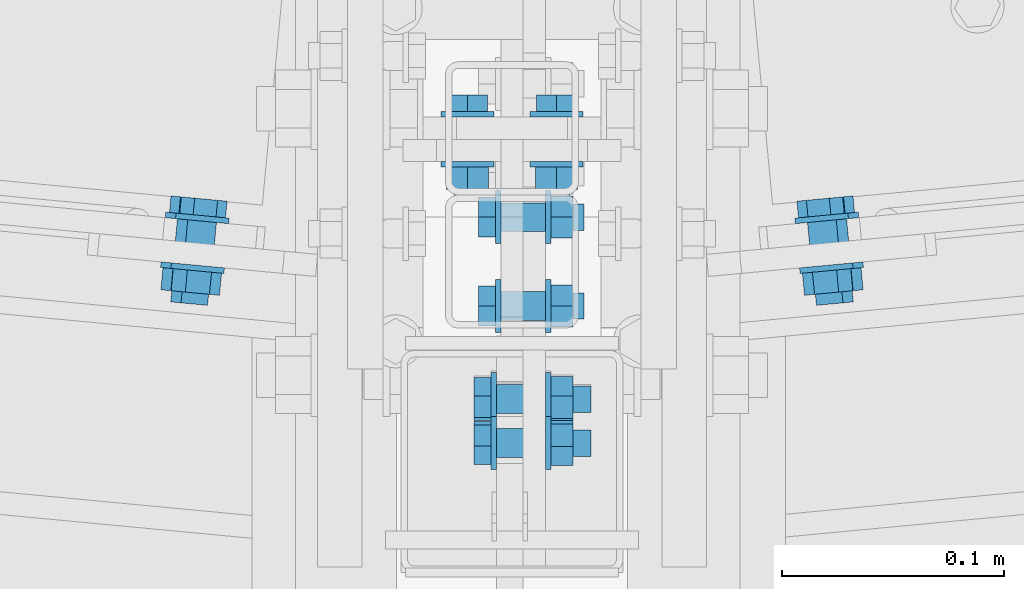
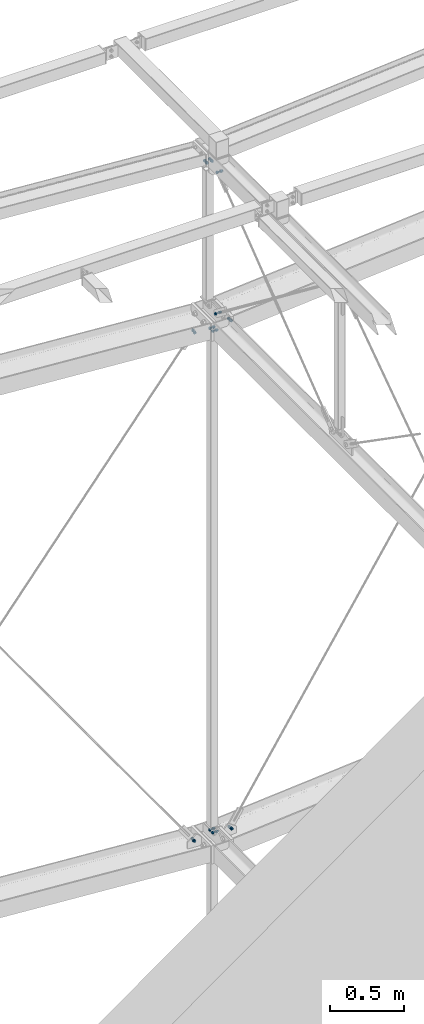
# One storey, part 244 of 271: 9 mechanical fasteners, 8 elements without a shape of their own.
"""IFC2X3 building model written with IfcOpenShell, lengths in millimetres."""

from ifc_helpers import new_model, si_unit, frame, origin_with_axes, origin_2d_with_axis, place, context, subcontext, project, spatial, polyline, circle, outline, extrude, source, transform, mapped, material, type_object, element, aggregate, save


model = new_model("IFC2X3")

# Units and contexts
model_context = context("Model", 3, precision=1e-05, world=origin_with_axes())
body_context = subcontext(model_context, "Body", "Model", "MODEL_VIEW")
ifc_project = project(units=[si_unit("LENGTHUNIT", "METRE", prefix="MILLI"), si_unit("AREAUNIT", "SQUARE_METRE"), si_unit("VOLUMEUNIT", "CUBIC_METRE"), si_unit("MASSUNIT", "GRAM", prefix="KILO"), si_unit("TIMEUNIT", "SECOND"), si_unit("PLANEANGLEUNIT", "RADIAN"), si_unit("SOLIDANGLEUNIT", "STERADIAN"), si_unit("THERMODYNAMICTEMPERATUREUNIT", "DEGREE_CELSIUS"), si_unit("LUMINOUSINTENSITYUNIT", "LUMEN")], contexts=[model_context])

# Site, building, storey
site_placement = place(None, origin_with_axes())
site = spatial("IfcSite", under=ifc_project, at=site_placement, Name="Undefined", CompositionType="ELEMENT")
building_placement = place(site_placement, origin_with_axes())
building = spatial("IfcBuilding", under=site, at=building_placement, Name="Undefined", CompositionType="ELEMENT")
storey_placement = place(building_placement, origin_with_axes())
storey = spatial("IfcBuildingStorey", under=building, at=storey_placement, Name="Undefined", CompositionType="ELEMENT", Elevation=0.0)

# Assembly, mechanical fastener
assembly_1_placement = place(storey_placement, origin_with_axes())
assembly_1 = element("IfcElementAssembly", 1, at=assembly_1_placement, inside=storey, AssemblyPlace="NOTDEFINED", PredefinedType="RIGID_FRAME")
ifc_material = material(Name="Undefined")
mechanical_fastener_type = type_object("IfcMechanicalFastenerType", Name="Bolt assembly")
shared_shape_1 = source(origin_with_axes(), body_context, "Body", "SweptSolid", [
    extrude(circle(Radius=6.5, at=origin_2d_with_axis()), frame((0.0, -5.1, 0.0), z_axis=(0.0, 1.0, 0.0), x_axis=(1.0, 0.0, 0.0)), (0.0, 0.0, 1.0), 10.1),
    extrude(circle(Radius=6.5, at=origin_2d_with_axis()), frame((0.0, -16.9, 0.0), z_axis=(0.0, 1.0, 0.0), x_axis=(1.0, 0.0, 0.0)), (0.0, 0.0, 1.0), 12.0),
    extrude(outline(polyline([(10.39230484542, 0.0), (5.19615242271, 9.00000000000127), (-5.19615242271, 9.00000000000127), (-10.39230484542, 0.0), (-5.19615242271, -9.00000000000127), (5.19615242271, -9.00000000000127), (10.39230484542, 0.0)])), frame((0.0, -27.0, 0.0), z_axis=(0.0, 1.0, 0.0), x_axis=(1.0, 0.0, 0.0)), (0.0, 0.0, 1.0), 7.5),
    extrude(circle(Radius=6.0, at=origin_2d_with_axis()), frame((0.0, -19.5, 0.0), z_axis=(0.0, 1.0, 0.0), x_axis=(1.0, 0.0, 0.0)), (0.0, 0.0, 1.0), 45.0),
    extrude(circle(Radius=12.0, at=origin_2d_with_axis()), frame((0.0, -19.5, 0.0), z_axis=(0.0, 1.0, 0.0), x_axis=(1.0, 0.0, 0.0)), (0.0, 0.0, 1.0), 2.5),
    extrude(circle(Radius=12.0, at=origin_2d_with_axis()), frame((0.0, 5.00000000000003, 0.0), z_axis=(0.0, 1.0, 0.0), x_axis=(1.0, 0.0, 0.0)), (0.0, 0.0, 1.0), 2.5),
    extrude(outline(polyline([(10.96965511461, 0.0), (5.484827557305, 9.50000000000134), (-5.484827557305, 9.50000000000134), (-10.96965511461, 0.0), (-5.484827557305, -9.50000000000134), (5.484827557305, -9.50000000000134), (10.96965511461, 0.0)])), frame((0.0, 7.50000000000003, 0.0), z_axis=(0.0, 1.0, 0.0), x_axis=(1.0, 0.0, 0.0)), (0.0, 0.0, 1.0), 10.0),
])
mechanical_fastener_1_placement = place(assembly_1_placement, frame((6358.37568736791, 3643.02599594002, 18726.6469362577), z_axis=(0.0, 0.609061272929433, 0.793123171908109), x_axis=(0.0, -0.793123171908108, 0.609061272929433)))
mechanical_fastener_1 = element("IfcMechanicalFastener", 2, at=mechanical_fastener_1_placement, type_object=mechanical_fastener_type, material=ifc_material, Name="Bolt assembly", NominalDiameter=12.0, NominalLength=45.0, context=body_context, shape_type="MappedRepresentation", body=[
    mapped(shared_shape_1, transform((0.0, 0.0, 0.0))),
])
aggregate(assembly_1, [mechanical_fastener_1])

assembly_2_placement = place(storey_placement, origin_with_axes())
assembly_2 = element("IfcElementAssembly", 3, at=assembly_2_placement, inside=storey, AssemblyPlace="NOTDEFINED", PredefinedType="RIGID_FRAME")
mechanical_fastener_2_placement = place(assembly_2_placement, frame((6358.37568736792, 3623.22015775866, 19906.8436120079), z_axis=(0.0, -0.609061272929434, 0.793123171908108), x_axis=(0.0, -0.793123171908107, -0.609061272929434)))
mechanical_fastener_2 = element("IfcMechanicalFastener", 4, at=mechanical_fastener_2_placement, type_object=mechanical_fastener_type, material=ifc_material, Name="Bolt assembly", NominalDiameter=12.0, NominalLength=45.0, context=body_context, shape_type="MappedRepresentation", body=[
    mapped(shared_shape_1, transform((0.0, 0.0, 0.0))),
])
aggregate(assembly_2, [mechanical_fastener_2])

assembly_3_placement = place(storey_placement, origin_with_axes())
assembly_3 = element("IfcElementAssembly", 5, at=assembly_3_placement, inside=storey, AssemblyPlace="NOTDEFINED", PredefinedType="RIGID_FRAME")
shared_shape_2 = source(origin_with_axes(), body_context, "Body", "SweptSolid", [
    extrude(circle(Radius=6.5, at=origin_2d_with_axis()), frame((0.0, -5.1, 0.0), z_axis=(0.0, 1.0, 0.0), x_axis=(1.0, 0.0, 0.0)), (0.0, 0.0, 1.0), 10.1),
    extrude(circle(Radius=6.5, at=origin_2d_with_axis()), frame((0.0, -14.9000000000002, 0.0), z_axis=(0.0, 1.0, 0.0), x_axis=(1.0, 0.0, 0.0)), (0.0, 0.0, 1.0), 10.0),
    extrude(outline(polyline([(10.39230484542, 0.0), (5.19615242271, 9.00000000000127), (-5.19615242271, 9.00000000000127), (-10.39230484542, 0.0), (-5.19615242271, -9.00000000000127), (5.19615242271, -9.00000000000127), (10.39230484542, 0.0)])), frame((0.0, -25.0000000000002, 0.0), z_axis=(0.0, 1.0, 0.0), x_axis=(1.0, 0.0, 0.0)), (0.0, 0.0, 1.0), 7.5),
    extrude(circle(Radius=6.0, at=origin_2d_with_axis()), frame((0.0, -17.5000000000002, 0.0), z_axis=(0.0, 1.0, 0.0), x_axis=(1.0, 0.0, 0.0)), (0.0, 0.0, 1.0), 40.0),
    extrude(circle(Radius=12.0, at=origin_2d_with_axis()), frame((0.0, -17.5000000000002, 0.0), z_axis=(0.0, 1.0, 0.0), x_axis=(1.0, 0.0, 0.0)), (0.0, 0.0, 1.0), 2.5),
    extrude(circle(Radius=12.0, at=origin_2d_with_axis()), frame((0.0, 5.00000000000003, 0.0), z_axis=(0.0, 1.0, 0.0), x_axis=(1.0, 0.0, 0.0)), (0.0, 0.0, 1.0), 2.5),
    extrude(outline(polyline([(10.96965511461, 0.0), (5.484827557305, 9.50000000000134), (-5.484827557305, 9.50000000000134), (-10.96965511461, 0.0), (-5.484827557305, -9.50000000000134), (5.484827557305, -9.50000000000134), (10.96965511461, 0.0)])), frame((0.0, 7.50000000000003, 0.0), z_axis=(0.0, 1.0, 0.0), x_axis=(1.0, 0.0, 0.0)), (0.0, 0.0, 1.0), 10.0),
])
mechanical_fastener_3_placement = place(assembly_3_placement, frame((6348.37568736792, 3754.92439872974, 19916.8499999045), z_axis=(-1.0, 0.0, 1.38777878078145e-17), x_axis=(0.0, 0.0, -1.0)))
mechanical_fastener_3 = element("IfcMechanicalFastener", 6, at=mechanical_fastener_3_placement, type_object=mechanical_fastener_type, material=ifc_material, Name="Bolt assembly", NominalDiameter=12.0, NominalLength=40.0, context=body_context, shape_type="MappedRepresentation", body=[
    mapped(shared_shape_2, transform((0.0, 0.0, -20.0))),
    mapped(shared_shape_2, transform((0.0, 0.0, 20.0))),
])
aggregate(assembly_3, [mechanical_fastener_3])

assembly_4_placement = place(storey_placement, origin_with_axes())
assembly_4 = element("IfcElementAssembly", 7, at=assembly_4_placement, inside=storey, AssemblyPlace="NOTDEFINED", PredefinedType="RIGID_FRAME")
mechanical_fastener_4_placement = place(assembly_4_placement, frame((6489.27550537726, 3708.17756918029, 18584.431866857), z_axis=(-0.809182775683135, -0.0762839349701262, -0.582583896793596), x_axis=(0.580001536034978, 0.0547925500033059, -0.81277056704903)))
mechanical_fastener_4 = element("IfcMechanicalFastener", 8, at=mechanical_fastener_4_placement, type_object=mechanical_fastener_type, material=ifc_material, Name="Bolt assembly", NominalDiameter=12.0, NominalLength=40.0, context=body_context, shape_type="MappedRepresentation", body=[
    mapped(shared_shape_2, transform((0.0, 0.0, 0.0))),
])
aggregate(assembly_4, [mechanical_fastener_4])

assembly_5_placement = place(storey_placement, origin_with_axes())
assembly_5 = element("IfcElementAssembly", 9, at=assembly_5_placement, inside=storey, AssemblyPlace="NOTDEFINED", PredefinedType="RIGID_FRAME")
mechanical_fastener_5_placement = place(assembly_5_placement, frame((6493.91223412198, 3708.61559757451, 14384.2621958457), z_axis=(0.809602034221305, 0.0763236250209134, -0.5819959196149), x_axis=(0.579416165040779, 0.0547372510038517, 0.813191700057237)))
mechanical_fastener_5 = element("IfcMechanicalFastener", 10, at=mechanical_fastener_5_placement, type_object=mechanical_fastener_type, material=ifc_material, Name="Bolt assembly", NominalDiameter=12.0, NominalLength=40.0, context=body_context, shape_type="MappedRepresentation", body=[
    mapped(shared_shape_2, transform((0.0, 0.0, 0.0))),
])
aggregate(assembly_5, [mechanical_fastener_5])

assembly_6_placement = place(storey_placement, origin_with_axes())
assembly_6 = element("IfcElementAssembly", 11, at=assembly_6_placement, inside=storey, AssemblyPlace="NOTDEFINED", PredefinedType="RIGID_FRAME")
mechanical_fastener_6_placement = place(assembly_6_placement, frame((6207.47599175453, 3708.17779858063, 18584.4320075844), z_axis=(-0.809182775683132, 0.0762839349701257, 0.582583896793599), x_axis=(-0.58000153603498, 0.0547925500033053, -0.812770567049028)))
mechanical_fastener_6 = element("IfcMechanicalFastener", 12, at=mechanical_fastener_6_placement, type_object=mechanical_fastener_type, material=ifc_material, Name="Bolt assembly", NominalDiameter=12.0, NominalLength=40.0, context=body_context, shape_type="MappedRepresentation", body=[
    mapped(shared_shape_2, transform((0.0, 0.0, 0.0))),
])
aggregate(assembly_6, [mechanical_fastener_6])

assembly_7_placement = place(storey_placement, origin_with_axes())
assembly_7 = element("IfcElementAssembly", 13, at=assembly_7_placement, inside=storey, AssemblyPlace="NOTDEFINED", PredefinedType="RIGID_FRAME")
mechanical_fastener_7_placement = place(assembly_7_placement, frame((6202.83926250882, 3708.61582714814, 14384.262055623), z_axis=(0.809602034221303, -0.0763236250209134, 0.581995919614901), x_axis=(-0.57941616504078, 0.0547372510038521, 0.813191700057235)))
mechanical_fastener_7 = element("IfcMechanicalFastener", 14, at=mechanical_fastener_7_placement, type_object=mechanical_fastener_type, material=ifc_material, Name="Bolt assembly", NominalDiameter=12.0, NominalLength=40.0, context=body_context, shape_type="MappedRepresentation", body=[
    mapped(shared_shape_2, transform((0.0, 0.0, 0.0))),
])
aggregate(assembly_7, [mechanical_fastener_7])

# Assembly, mechanical fasteners
assembly_8_placement = place(storey_placement, origin_with_axes())
assembly_8 = element("IfcElementAssembly", 15, at=assembly_8_placement, inside=storey, AssemblyPlace="NOTDEFINED", PredefinedType="RIGID_FRAME")
mechanical_fastener_8_placement = place(assembly_8_placement, frame((6358.37568736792, 3704.92439872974, 18556.5999999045), z_axis=(0.0, -1.0, 0.0), x_axis=(0.0, 0.0, -1.0)))
mechanical_fastener_8 = element("IfcMechanicalFastener", 16, at=mechanical_fastener_8_placement, type_object=mechanical_fastener_type, material=ifc_material, Name="Bolt assembly", NominalDiameter=12.0, NominalLength=40.0, context=body_context, shape_type="MappedRepresentation", body=[
    mapped(shared_shape_2, transform((0.0, 0.0, -20.0))),
    mapped(shared_shape_2, transform((0.0, 0.0, 20.0))),
])
mechanical_fastener_9_placement = place(assembly_8_placement, frame((6358.37568736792, 3704.92439872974, 14412.0999999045), z_axis=(0.0, 1.0, 0.0), x_axis=(0.0, 0.0, 1.0)))
mechanical_fastener_9 = element("IfcMechanicalFastener", 17, at=mechanical_fastener_9_placement, type_object=mechanical_fastener_type, material=ifc_material, Name="Bolt assembly", NominalDiameter=12.0, NominalLength=40.0, context=body_context, shape_type="MappedRepresentation", body=[
    mapped(shared_shape_2, transform((0.0, 0.0, -20.0))),
    mapped(shared_shape_2, transform((0.0, 0.0, 20.0))),
])
aggregate(assembly_8, [mechanical_fastener_8, mechanical_fastener_9])

save(model, "model.ifc")
